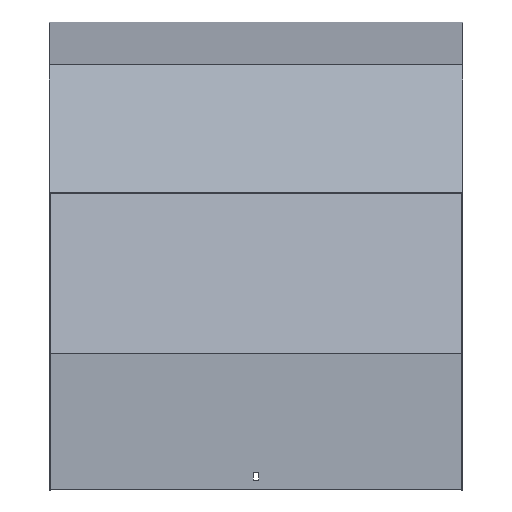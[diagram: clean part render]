
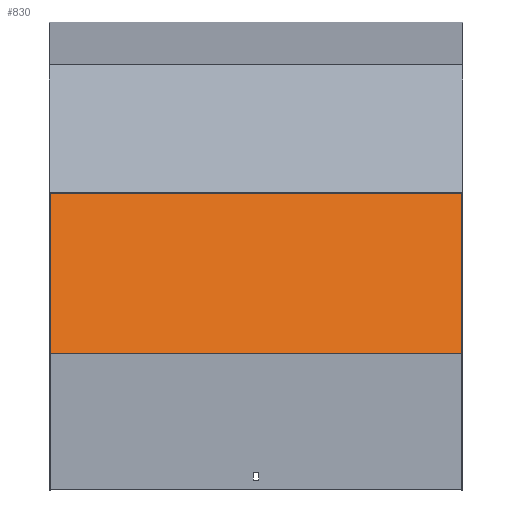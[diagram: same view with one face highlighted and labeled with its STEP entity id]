
A CAD part, top view. The second image highlights one B-rep face of the part: STEP entity #830.
In plain terms, the highlighted planar face has unit normal (0, 0.259, 0.966).
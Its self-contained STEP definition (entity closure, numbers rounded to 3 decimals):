
#46 = DIRECTION ( 'NONE',  ( 0., 0.966, -0.259 ) ) ;
#60 = LINE ( 'NONE', #417, #640 ) ;
#67 = CARTESIAN_POINT ( 'NONE',  ( 251.5, -187.902, 517.072 ) ) ;
#147 = EDGE_CURVE ( 'NONE', #1051, #642, #60, .T. ) ;
#148 = DIRECTION ( 'NONE',  ( -1., 0., 0. ) ) ;
#176 = VERTEX_POINT ( 'NONE', #226 ) ;
#184 = CARTESIAN_POINT ( 'NONE',  ( -251.5, -187.902, 517.072 ) ) ;
#185 = ORIENTED_EDGE ( 'NONE', *, *, #1073, .T. ) ;
#222 = AXIS2_PLACEMENT_3D ( 'NONE', #555, #804, #46 ) ;
#226 = CARTESIAN_POINT ( 'NONE',  ( -251.5, -383.978, 569.611 ) ) ;
#247 = LINE ( 'NONE', #1118, #701 ) ;
#381 = VECTOR ( 'NONE', #523, 1000. ) ;
#417 = CARTESIAN_POINT ( 'NONE',  ( 251.5, -187.902, 517.072 ) ) ;
#429 = CARTESIAN_POINT ( 'NONE',  ( 251.5, -193.079, 518.459 ) ) ;
#479 = CARTESIAN_POINT ( 'NONE',  ( 251.5, -383.978, 569.611 ) ) ;
#500 = DIRECTION ( 'NONE',  ( -1., 0., 0. ) ) ;
#520 = EDGE_CURVE ( 'NONE', #811, #176, #1012, .T. ) ;
#523 = DIRECTION ( 'NONE',  ( 0., -0.966, 0.259 ) ) ;
#555 = CARTESIAN_POINT ( 'NONE',  ( 251.5, -193.079, 518.459 ) ) ;
#565 = ORIENTED_EDGE ( 'NONE', *, *, #520, .F. ) ;
#601 = DIRECTION ( 'NONE',  ( 0., -0.966, 0.259 ) ) ;
#631 = ORIENTED_EDGE ( 'NONE', *, *, #147, .T. ) ;
#640 = VECTOR ( 'NONE', #500, 1000. ) ;
#642 = VERTEX_POINT ( 'NONE', #184 ) ;
#693 = EDGE_CURVE ( 'NONE', #1051, #811, #1048, .T. ) ;
#701 = VECTOR ( 'NONE', #601, 1000. ) ;
#740 = ORIENTED_EDGE ( 'NONE', *, *, #693, .F. ) ;
#804 = DIRECTION ( 'NONE',  ( 0., -0.259, -0.966 ) ) ;
#811 = VERTEX_POINT ( 'NONE', #479 ) ;
#830 = ADVANCED_FACE ( 'NONE', ( #967 ), #869, .F. ) ;
#845 = CARTESIAN_POINT ( 'NONE',  ( 251.5, -383.978, 569.611 ) ) ;
#869 = PLANE ( 'NONE',  #222 ) ;
#932 = VECTOR ( 'NONE', #148, 1000. ) ;
#967 = FACE_OUTER_BOUND ( 'NONE', #968, .T. ) ;
#968 = EDGE_LOOP ( 'NONE', ( #185, #565, #740, #631 ) ) ;
#1012 = LINE ( 'NONE', #845, #932 ) ;
#1048 = LINE ( 'NONE', #429, #381 ) ;
#1051 = VERTEX_POINT ( 'NONE', #67 ) ;
#1073 = EDGE_CURVE ( 'NONE', #642, #176, #247, .T. ) ;
#1118 = CARTESIAN_POINT ( 'NONE',  ( -251.5, -193.079, 518.459 ) ) ;
